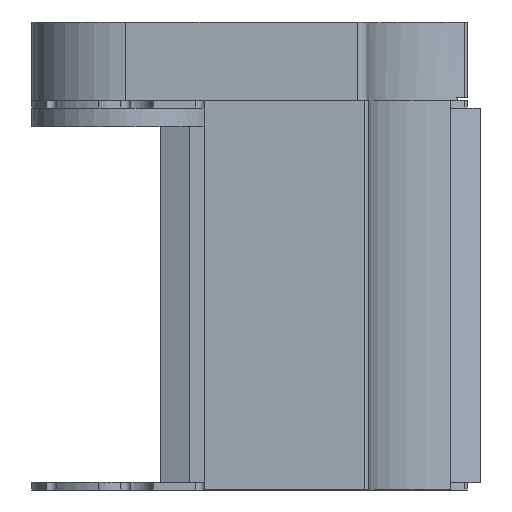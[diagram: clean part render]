
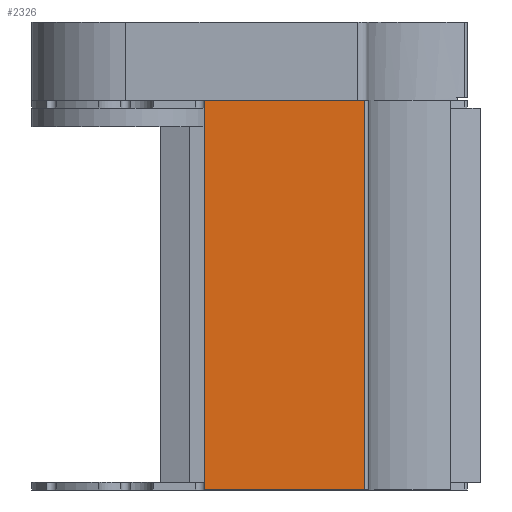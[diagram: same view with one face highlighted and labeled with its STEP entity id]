
A CAD part, front view. The second image highlights one B-rep face of the part: STEP entity #2326.
In plain terms, the highlighted planar face has unit normal (0, -1, 0).
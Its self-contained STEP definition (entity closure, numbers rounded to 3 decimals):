
#308 = ORIENTED_EDGE ( 'NONE', *, *, #7334, .F. ) ;
#328 = VECTOR ( 'NONE', #11572, 1000. ) ;
#378 = FACE_OUTER_BOUND ( 'NONE', #8185, .T. ) ;
#1275 = DIRECTION ( 'NONE',  ( 0., 0., 1. ) ) ;
#1330 = CARTESIAN_POINT ( 'NONE',  ( 37.279, -61., -325.903 ) ) ;
#1478 = VERTEX_POINT ( 'NONE', #5519 ) ;
#1651 = EDGE_CURVE ( 'NONE', #11212, #2643, #8453, .T. ) ;
#2326 = ADVANCED_FACE ( 'NONE', ( #378 ), #4212, .T. ) ;
#2643 = VERTEX_POINT ( 'NONE', #3803 ) ;
#2761 = VECTOR ( 'NONE', #6622, 1000. ) ;
#3216 = LINE ( 'NONE', #8809, #328 ) ;
#3235 = CARTESIAN_POINT ( 'NONE',  ( -65.221, -61., -325.903 ) ) ;
#3378 = EDGE_CURVE ( 'NONE', #1478, #2643, #3664, .T. ) ;
#3564 = VECTOR ( 'NONE', #1275, 1000. ) ;
#3664 = LINE ( 'NONE', #8506, #2761 ) ;
#3787 = CARTESIAN_POINT ( 'NONE',  ( 37.279, -61., -124.5 ) ) ;
#3803 = CARTESIAN_POINT ( 'NONE',  ( 37.279, -61., 124.5 ) ) ;
#4050 = ORIENTED_EDGE ( 'NONE', *, *, #1651, .T. ) ;
#4136 = DIRECTION ( 'NONE',  ( 0., 0., 1. ) ) ;
#4212 = PLANE ( 'NONE',  #5261 ) ;
#4395 = EDGE_CURVE ( 'NONE', #11265, #11212, #3216, .T. ) ;
#4480 = ORIENTED_EDGE ( 'NONE', *, *, #4395, .T. ) ;
#5261 = AXIS2_PLACEMENT_3D ( 'NONE', #1330, #6077, #8138 ) ;
#5519 = CARTESIAN_POINT ( 'NONE',  ( -65.221, -61., 124.5 ) ) ;
#6077 = DIRECTION ( 'NONE',  ( 0., -1., 0. ) ) ;
#6622 = DIRECTION ( 'NONE',  ( 1., 0., 0. ) ) ;
#7334 = EDGE_CURVE ( 'NONE', #11265, #1478, #9201, .T. ) ;
#8138 = DIRECTION ( 'NONE',  ( 0., 0., -1. ) ) ;
#8185 = EDGE_LOOP ( 'NONE', ( #308, #4480, #4050, #9677 ) ) ;
#8453 = LINE ( 'NONE', #8921, #3564 ) ;
#8506 = CARTESIAN_POINT ( 'NONE',  ( 37.279, -61., 124.5 ) ) ;
#8809 = CARTESIAN_POINT ( 'NONE',  ( 37.279, -61., -124.5 ) ) ;
#8921 = CARTESIAN_POINT ( 'NONE',  ( 37.279, -61., -325.903 ) ) ;
#9201 = LINE ( 'NONE', #3235, #11626 ) ;
#9492 = CARTESIAN_POINT ( 'NONE',  ( -65.221, -61., -124.5 ) ) ;
#9677 = ORIENTED_EDGE ( 'NONE', *, *, #3378, .F. ) ;
#11212 = VERTEX_POINT ( 'NONE', #3787 ) ;
#11265 = VERTEX_POINT ( 'NONE', #9492 ) ;
#11572 = DIRECTION ( 'NONE',  ( 1., 0., 0. ) ) ;
#11626 = VECTOR ( 'NONE', #4136, 1000. ) ;
